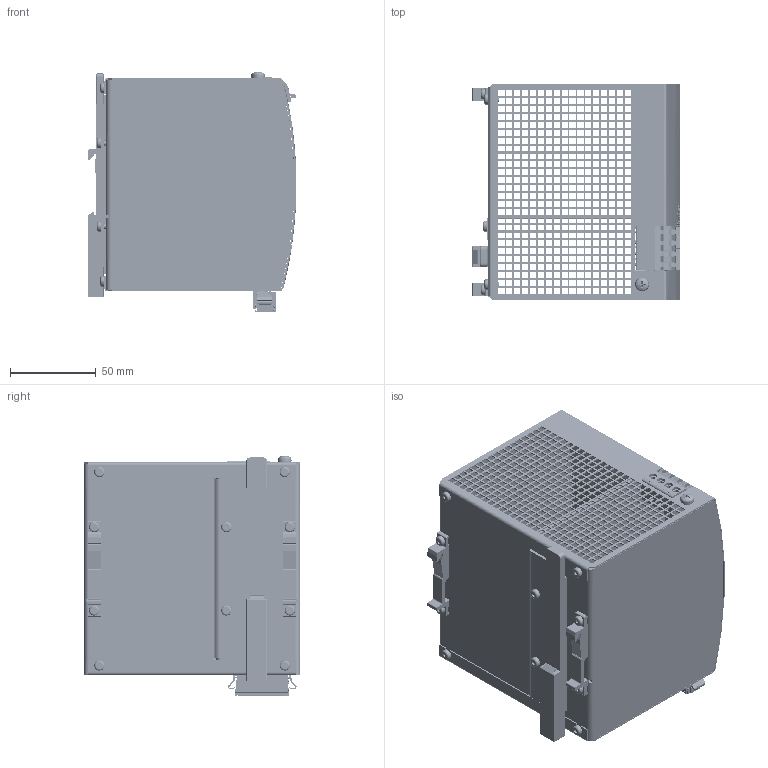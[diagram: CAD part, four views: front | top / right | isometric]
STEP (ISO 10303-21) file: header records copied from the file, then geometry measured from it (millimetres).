
FILE_DESCRIPTION((''),'2;1');
FILE_NAME('C:\Users\rahns\Desktop\406\Internetdaten\md3_uc10_241.stp','2013-11-21T11:33:52',('rahns'),(''),'Autodesk Inventor 2009','Autodesk Inventor 2009','');
FILE_SCHEMA(('AUTOMOTIVE_DESIGN { 1 0 10303 214 1 1 1 1 }'));
Length unit declared in the file: millimetre
Products named in the file (16): 406; HOUSING BODY 406; HOUSING COVER 406; FRONTFOIL 406; LED YE; LED RD; LED GN; TERMINAL 4P R6,35; TERMINAL 8P PLUG; TERMINAL 8P CONNECTOR; SCREW 3x6; SLIDER; T HOLDER; SCREW 4x8; WASHER 4
Assembly tree (25 placements, depth 2):
  406
    HOUSING BODY 406
    HOUSING BODY 406
    HOUSING COVER 406
    FRONTFOIL 406
    LED YE
    LED RD
    LED GN
    TERMINAL 4P R6,35
    TERMINAL 8P PLUG
    TERMINAL 8P CONNECTOR
    SCREW 3x6  x10
    SLIDER
    T HOLDER  x2
    SCREW 4x8
    WASHER 4
Bounding box: 121.71 x 126 x 140.26 mm (x, y, z)
Volume: 140038.5 mm3; surface area: 238685.5 mm2
Topology: 174 solids, 174 shells, 9139 faces, 25469 edges, 16847 vertices
Faces by surface type: plane 6885, bspline 1303, cylinder 597, torus 234, cone 93, sphere 27
Full cylindrical faces by diameter (mm): 0.2 x2, 0.99 x8, 1 x8, 1.05 x40, 1.1 x8, 1.25 x34, 1.5 x8, 2.45 x2, 3 x10, 3.1 x4, 3.2 x2, 3.5 x3, 3.621 x1, 4 x1, 4.3 x1, 4.5 x3, 4.6 x3, 5 x4, 6 x10
Entity records: 310828 total; most frequent: CARTESIAN_POINT 82292, ORIENTED_EDGE 49136, DIRECTION 40738, EDGE_CURVE 24568, VECTOR 19272, LINE 19272, VERTEX_POINT 16417, EDGE_LOOP 11417
